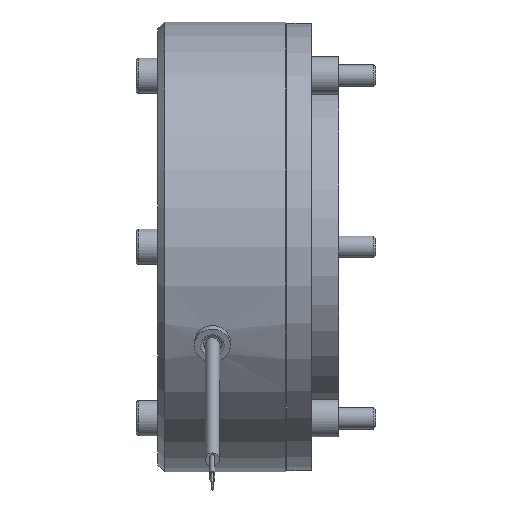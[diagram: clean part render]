
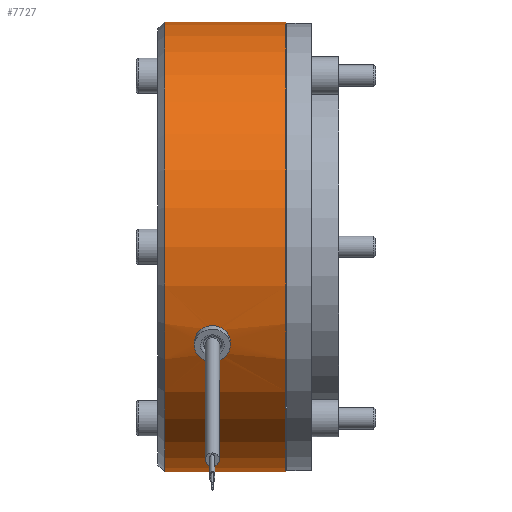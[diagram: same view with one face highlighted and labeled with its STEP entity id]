
A CAD part, front view. The second image highlights one B-rep face of the part: STEP entity #7727.
In plain terms, the highlighted cylindrical face has radius 82.5 mm (diameter 165 mm), a full revolution.
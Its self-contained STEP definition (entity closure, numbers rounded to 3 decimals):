
#314=B_SPLINE_CURVE_WITH_KNOTS('',3,(#13966,#13967,#13968,#13969,#13970,
#13971,#13972,#13973,#13974,#13975,#13976,#13977,#13978,#13979,#13980,#13981,
#13982,#13983),.UNSPECIFIED.,.F.,.F.,(4,2,2,2,2,2,2,2,4),(0.767,
0.959,1.152,1.343,1.535,1.726,
1.918,2.11,2.302),.UNSPECIFIED.);
#315=B_SPLINE_CURVE_WITH_KNOTS('',3,(#13986,#13987,#13988,#13989,#13990,
#13991,#13992,#13993,#13994,#13995,#13996,#13997,#13998,#13999,#14000,#14001,
#14002,#14003,#14004),.UNSPECIFIED.,.F.,.F.,(4,2,2,2,3,2,2,2,4),(2.302,
2.494,2.686,2.878,3.069,3.261,
3.453,3.645,3.837),.UNSPECIFIED.);
#610=CYLINDRICAL_SURFACE('',#8517,82.5);
#665=FACE_BOUND('',#1899,.T.);
#1063=CIRCLE('',#8518,82.5);
#1064=CIRCLE('',#8519,82.5);
#1065=CIRCLE('',#8520,82.5);
#1470=FACE_OUTER_BOUND('',#1898,.T.);
#1898=EDGE_LOOP('',(#6593,#6594,#6595,#6596,#6597));
#1899=EDGE_LOOP('',(#6598,#6599,#6600,#6601,#6602,#6603));
#2336=LINE('',#14083,#2713);
#2337=LINE('',#14085,#2714);
#2338=LINE('',#14086,#2715);
#2713=VECTOR('',#10376,82.5);
#2714=VECTOR('',#10379,10.);
#2715=VECTOR('',#10380,10.);
#3413=VERTEX_POINT('',#13964);
#3414=VERTEX_POINT('',#13965);
#3415=VERTEX_POINT('',#14007);
#3416=VERTEX_POINT('',#14009);
#3427=VERTEX_POINT('',#14078);
#3428=VERTEX_POINT('',#14079);
#3429=VERTEX_POINT('',#14082);
#4487=EDGE_CURVE('',#3413,#3414,#314,.T.);
#4489=EDGE_CURVE('',#3414,#3413,#315,.T.);
#4508=EDGE_CURVE('',#3427,#3428,#1063,.T.);
#4509=EDGE_CURVE('',#3428,#3427,#1064,.T.);
#4510=EDGE_CURVE('',#3428,#3429,#2336,.T.);
#4511=EDGE_CURVE('',#3429,#3429,#1065,.T.);
#4512=EDGE_CURVE('',#3414,#3416,#2337,.T.);
#4513=EDGE_CURVE('',#3415,#3413,#2338,.T.);
#6593=ORIENTED_EDGE('',*,*,#4508,.F.);
#6594=ORIENTED_EDGE('',*,*,#4509,.F.);
#6595=ORIENTED_EDGE('',*,*,#4510,.T.);
#6596=ORIENTED_EDGE('',*,*,#4511,.F.);
#6597=ORIENTED_EDGE('',*,*,#4510,.F.);
#6598=ORIENTED_EDGE('',*,*,#4512,.T.);
#6599=ORIENTED_EDGE('',*,*,#4512,.F.);
#6600=ORIENTED_EDGE('',*,*,#4489,.T.);
#6601=ORIENTED_EDGE('',*,*,#4513,.F.);
#6602=ORIENTED_EDGE('',*,*,#4513,.T.);
#6603=ORIENTED_EDGE('',*,*,#4487,.T.);
#7727=ADVANCED_FACE('',(#1470,#665),#610,.T.);
#8517=AXIS2_PLACEMENT_3D('',#14077,#10370,#10371);
#8518=AXIS2_PLACEMENT_3D('',#14080,#10372,#10373);
#8519=AXIS2_PLACEMENT_3D('',#14081,#10374,#10375);
#8520=AXIS2_PLACEMENT_3D('',#14084,#10377,#10378);
#10370=DIRECTION('center_axis',(-1.,0.,0.));
#10371=DIRECTION('ref_axis',(0.,0.,
-1.));
#10372=DIRECTION('center_axis',(-1.,0.,0.));
#10373=DIRECTION('ref_axis',(0.,-1.,0.));
#10374=DIRECTION('center_axis',(-1.,0.,0.));
#10375=DIRECTION('ref_axis',(0.,-1.,0.));
#10376=DIRECTION('',(1.,0.,0.));
#10377=DIRECTION('center_axis',(1.,0.,0.));
#10378=DIRECTION('ref_axis',(0.,0.,
-1.));
#10379=DIRECTION('',(-1.,0.,0.));
#10380=DIRECTION('',(-1.,0.,0.));
#13964=CARTESIAN_POINT('',(-21.9,-74.77,-34.866));
#13965=CARTESIAN_POINT('',(-32.1,-74.77,-34.866));
#13966=CARTESIAN_POINT('Ctrl Pts',(-21.9,-74.77,-34.866));
#13967=CARTESIAN_POINT('Ctrl Pts',(-21.9,-74.5,-35.446));
#13968=CARTESIAN_POINT('Ctrl Pts',(-22.029,-74.204,
-36.061));
#13969=CARTESIAN_POINT('Ctrl Pts',(-22.552,-73.647,
-37.186));
#13970=CARTESIAN_POINT('Ctrl Pts',(-22.946,-73.386,-37.695));
#13971=CARTESIAN_POINT('Ctrl Pts',(-23.853,-72.97,-38.495));
#13972=CARTESIAN_POINT('Ctrl Pts',(-24.426,-72.786,
-38.839));
#13973=CARTESIAN_POINT('Ctrl Pts',(-25.68,-72.541,
-39.295));
#13974=CARTESIAN_POINT('Ctrl Pts',(-26.361,-72.48,
-39.406));
#13975=CARTESIAN_POINT('Ctrl Pts',(-27.639,-72.48,
-39.406));
#13976=CARTESIAN_POINT('Ctrl Pts',(-28.321,-72.541,
-39.294));
#13977=CARTESIAN_POINT('Ctrl Pts',(-29.576,-72.787,-38.838));
#13978=CARTESIAN_POINT('Ctrl Pts',(-30.149,-72.971,
-38.493));
#13979=CARTESIAN_POINT('Ctrl Pts',(-31.056,-73.387,
-37.693));
#13980=CARTESIAN_POINT('Ctrl Pts',(-31.449,-73.648,
-37.184));
#13981=CARTESIAN_POINT('Ctrl Pts',(-31.971,-74.204,-36.06));
#13982=CARTESIAN_POINT('Ctrl Pts',(-32.1,-74.5,-35.446));
#13983=CARTESIAN_POINT('Ctrl Pts',(-32.1,-74.77,
-34.866));
#13986=CARTESIAN_POINT('Ctrl Pts',(-32.1,-74.77,
-34.866));
#13987=CARTESIAN_POINT('Ctrl Pts',(-32.1,-75.041,
-34.286));
#13988=CARTESIAN_POINT('Ctrl Pts',(-31.971,-75.322,-33.665));
#13989=CARTESIAN_POINT('Ctrl Pts',(-31.449,-75.824,
-32.516));
#13990=CARTESIAN_POINT('Ctrl Pts',(-31.056,-76.047,
-31.989));
#13991=CARTESIAN_POINT('Ctrl Pts',(-30.149,-76.392,
-31.156));
#13992=CARTESIAN_POINT('Ctrl Pts',(-29.576,-76.538,-30.793));
#13993=CARTESIAN_POINT('Ctrl Pts',(-28.321,-76.73,
-30.312));
#13994=CARTESIAN_POINT('Ctrl Pts',(-27.639,-76.776,-30.193));
#13995=CARTESIAN_POINT('Ctrl Pts',(-27.,-76.776,-30.193));
#13996=CARTESIAN_POINT('Ctrl Pts',(-26.361,-76.776,
-30.193));
#13997=CARTESIAN_POINT('Ctrl Pts',(-25.68,-76.73,
-30.312));
#13998=CARTESIAN_POINT('Ctrl Pts',(-24.426,-76.539,-30.792));
#13999=CARTESIAN_POINT('Ctrl Pts',(-23.853,-76.393,-31.154));
#14000=CARTESIAN_POINT('Ctrl Pts',(-22.946,-76.048,
-31.987));
#14001=CARTESIAN_POINT('Ctrl Pts',(-22.552,-75.825,
-32.514));
#14002=CARTESIAN_POINT('Ctrl Pts',(-22.029,-75.322,
-33.664));
#14003=CARTESIAN_POINT('Ctrl Pts',(-21.9,-75.041,-34.286));
#14004=CARTESIAN_POINT('Ctrl Pts',(-21.9,-74.77,-34.866));
#14007=CARTESIAN_POINT('',(-20.4,-74.77,-34.866));
#14009=CARTESIAN_POINT('',(-33.6,-74.77,-34.866));
#14077=CARTESIAN_POINT('Origin',(0.,0.,
0.));
#14078=CARTESIAN_POINT('',(-44.5,82.5,0.));
#14079=CARTESIAN_POINT('',(-44.5,0.,82.5));
#14080=CARTESIAN_POINT('Origin',(-44.5,0.,0.));
#14081=CARTESIAN_POINT('Origin',(-44.5,0.,0.));
#14082=CARTESIAN_POINT('',(0.,0.,82.5));
#14083=CARTESIAN_POINT('',(0.,0.,82.5));
#14084=CARTESIAN_POINT('Origin',(0.,0.,
0.));
#14085=CARTESIAN_POINT('',(0.,-74.77,-34.866));
#14086=CARTESIAN_POINT('',(0.,-74.77,-34.866));
